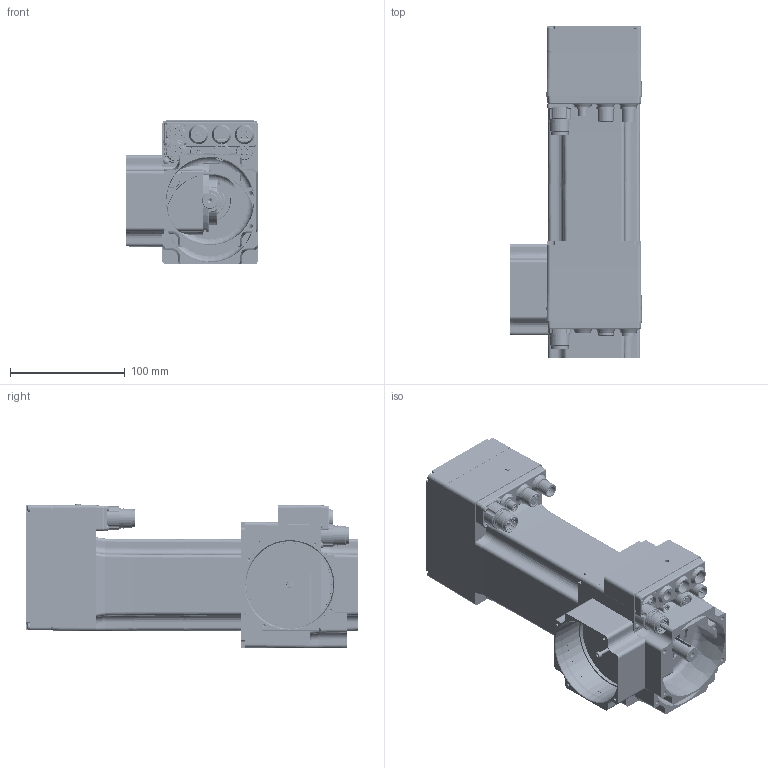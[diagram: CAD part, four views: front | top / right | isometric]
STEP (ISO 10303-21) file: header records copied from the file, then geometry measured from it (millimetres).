
FILE_DESCRIPTION( ( 'Unknown' ), '1' );
FILE_NAME( 'C:/Users/dotti/Desktop/Q0B221/Q0B221 1,5.stp', 'Unknown', ( 'Unknown' ), ( 'Unknown' ), 'PSStep 14.0', 'Unknown', ' ' );
FILE_SCHEMA( ( 'AUTOMOTIVE_DESIGN { 1 0 10303 214 1 1 1 1 }' ) );
Length unit declared in the file: millimetre
Products named in the file (46): Assem1; T00246; 005117000974; N54236; CN M23 PAN-POT BEGA 906 4+5p; VECST-8112 M  2,5 x 12; G00030_profibus; G00029_Profibus; N33250; LI-PIA   5x5 x 25; CUSC_20_42_12_6004_ZZ; CUSC_15_32_9_6002_ZZ; a-ela  20; Anello-elastico-chiuso  42; 003155001098; LI-PIA   5x5 x 18; N09285; Anello-elastico-chiuso  32; Vite a brugola testa cil 8,8 -  M  3 x 25; Vite a brugola testa cil 8,8 -  M  3 x 25-oa0; Vite a brugola testa cil 8,8 -  M  3 x 25-oa1; Vite a brugola testa cil 8,8 -  M  3 x 25-oa2; Vite a brugola testa cil 8,8 -  M  3 x 40; Vite a brugola testa cil 8,8 -  M  3 x 40-oa3; Vite a brugola testa cil 8,8 -  M  3 x 40-oa4; Vite a brugola testa cil 8,8 -  M  3 x 40-oa5; 003016000054; N35217; VECST-8112 M  3 x 25; N54239; N01H22
Bounding box: 114.5 x 289.13 x 126.21 mm (x, y, z)
Volume: 1224311.2 mm3; surface area: 610298.6 mm2
Topology: 104 solids, 108 shells, 7575 faces, 20603 edges, 13503 vertices
Faces by surface type: plane 4102, cylinder 2605, cone 300, bspline 283, torus 217, sphere 68
Full cylindrical faces by diameter (mm): 1 x39, 1.5 x72, 2 x4, 2.4 x24, 2.459 x62, 2.5 x17, 2.7 x12, 3 x21, 3.242 x4, 3.5 x48, 4 x5, 4.134 x2, 4.2 x2, 5 x11, 5.5 x18, 6 x34, 8 x17, 8.5 x9, 8.75 x3, 9 x6, 10 x3, 11 x15, 11.9 x6, 12 x11, 14 x10, 14.4 x3, 14.5 x3, 15 x4, 15.01 x2, 15.6 x3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
Entity records: 108356 total; most frequent: CARTESIAN_POINT 27772, ORIENTED_EDGE 13738, DIRECTION 13709, EDGE_CURVE 6869, AXIS2_PLACEMENT_3D 4952, VERTEX_POINT 4710, LINE 3805, VECTOR 3805
